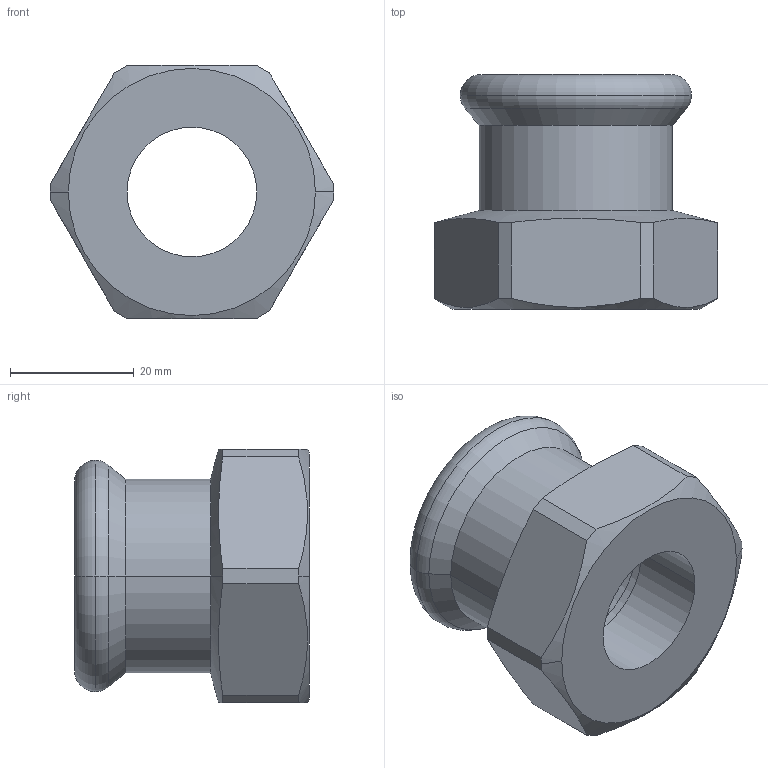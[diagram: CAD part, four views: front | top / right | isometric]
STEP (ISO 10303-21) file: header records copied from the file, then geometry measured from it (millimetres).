
FILE_DESCRIPTION(('CoCreate Modeling STEP Export'),'2;1');
FILE_NAME('C1402 28xRp1-2.stp','2014-11-07T13:13:03',(''),(''),'CoCreate Modeling STEP processor for AP214 (Solid Model)','CoCreate Modeling 17.00A 17-Jun-2010 (C) Parametric Technology GmbH','');
FILE_SCHEMA(('AUTOMOTIVE_DESIGN { 1 0 10303 214 1 1 1 1 }'));
Length unit declared in the file: millimetre
Products named in the file (2): C1402_28xRp½
Assembly tree (1 placements, depth 2):
  C1402_28xRp½
    C1402_28xRp½
Bounding box: 45.97 x 38 x 41 mm (x, y, z)
Volume: 21191.5 mm3; surface area: 9917.4 mm2
Topology: 1 solids, 2 shells, 42 faces, 99 edges, 63 vertices
Faces by surface type: plane 18, cylinder 12, cone 8, torus 4
Entity records: 2084 total; most frequent: CARTESIAN_POINT 1185, ORIENTED_EDGE 198, DIRECTION 134, EDGE_CURVE 99, VERTEX_POINT 63, AXIS2_PLACEMENT_3D 51, EDGE_LOOP 48, FACE_OUTER_BOUND 42
